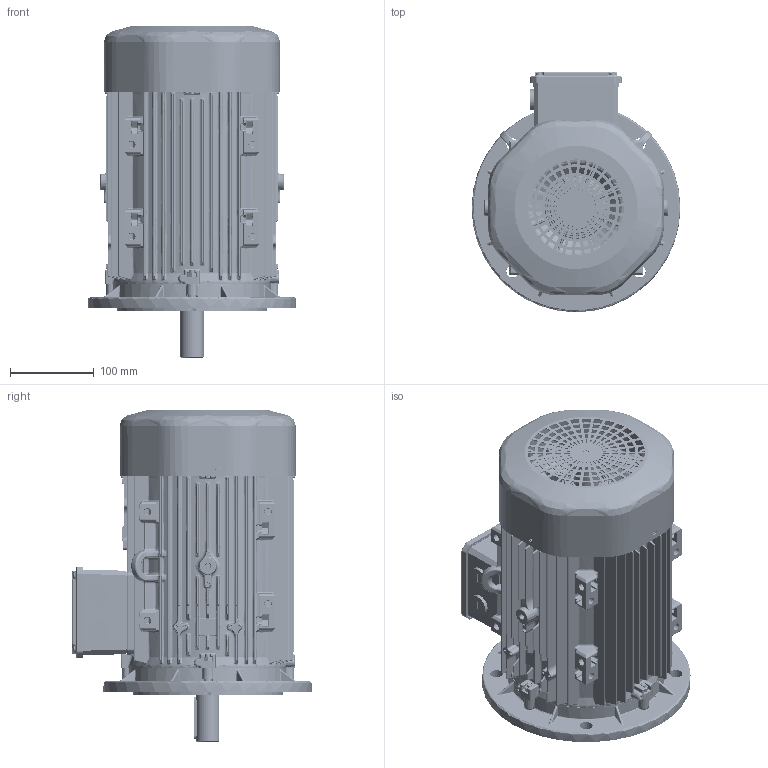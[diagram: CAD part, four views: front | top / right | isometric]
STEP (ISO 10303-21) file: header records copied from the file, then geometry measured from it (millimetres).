
FILE_DESCRIPTION(/* description */ (''),/* implementation_level */ '2;1');
FILE_NAME(/* name */ '(QH series) 112_B5.stp',/* time_stamp */ '2019-11-07T17:03:23+03:00',/* author */ (''),/* organization */ (''),/* preprocessor_version */ 'ST-DEVELOPER v16',/* originating_system */ 'SIEMENS PLM Software NX 11.0',/* authorisation */ '');
FILE_SCHEMA (('AUTOMOTIVE_DESIGN { 1 0 10303 214 3 1 1 1 }'));
Products named in the file (1): 2600223862CEl4pn
Bounding box: 249.75 x 287.37 x 396 mm (x, y, z)
Surface area: 1219657.4 mm2 (no closed solid volume)
Topology: 0 solids, 64 shells, 12897 faces, 30915 edges, 17505 vertices
Faces by surface type: bspline 4451, cylinder 3703, plane 2304, sphere 902, torus 774, cone 763
Full cylindrical faces by diameter (mm): 2 x12, 3.3 x4, 3.7 x4, 3.985 x1, 4 x4, 4.22 x1, 4.6 x3, 4.722 x2, 5 x10, 8 x5, 8.5 x1, 23.38 x2, 25 x2, 27 x1, 28 x1, 28.6 x1, 29.2 x1, 29.5 x1, 29.813 x1, 30 x5, 30.2 x1, 33 x1, 34 x1, 40.4 x4, 44.6 x4, 47 x2, 52.1 x2, 54.1 x4, 59.9 x2, 61 x1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
Entity records: 437926 total; most frequent: CARTESIAN_POINT 172605, ORIENTED_EDGE 59260, DIRECTION 50915, EDGE_CURVE 29630, AXIS2_PLACEMENT_3D 21275, VERTEX_POINT 17311, EDGE_LOOP 13815, ADVANCED_FACE 12895
